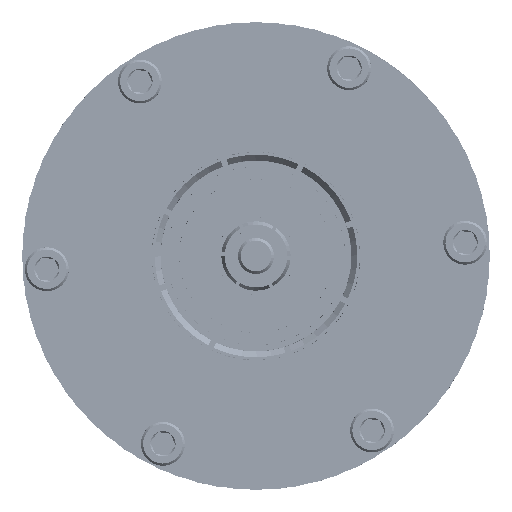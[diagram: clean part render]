
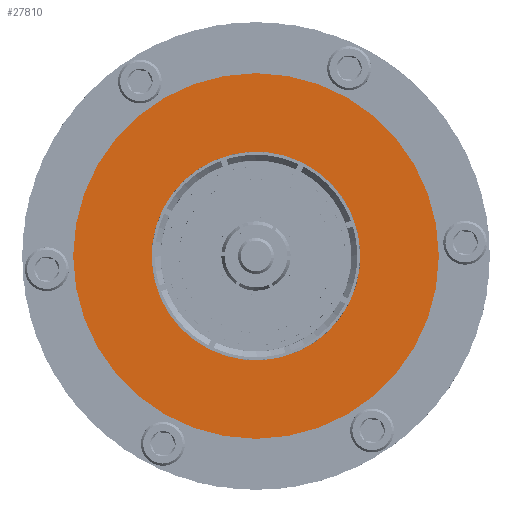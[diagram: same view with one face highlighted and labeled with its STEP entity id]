
A CAD part, front view. The second image highlights one B-rep face of the part: STEP entity #27810.
In plain terms, the highlighted planar face has unit normal (0, -1, 0).
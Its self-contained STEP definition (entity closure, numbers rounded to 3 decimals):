
#8378=ORIENTED_EDGE('',*,*,#12292,.T.);
#8379=ORIENTED_EDGE('',*,*,#12270,.F.);
#12270=EDGE_CURVE('',#14915,#14915,#16482,.T.);
#12292=EDGE_CURVE('',#14937,#14937,#16504,.T.);
#14915=VERTEX_POINT('',#65235);
#14937=VERTEX_POINT('',#65286);
#16482=CIRCLE('',#29956,39.688);
#16504=CIRCLE('',#29985,22.657);
#17714=EDGE_LOOP('',(#8378));
#17715=EDGE_LOOP('',(#8379));
#19101=FACE_BOUND('',#17714,.T.);
#19102=FACE_BOUND('',#17715,.T.);
#19741=PLANE('',#29984);
#27810=ADVANCED_FACE('',(#19101,#19102),#19741,.T.);
#29956=AXIS2_PLACEMENT_3D('',#65234,#34628,#34629);
#29984=AXIS2_PLACEMENT_3D('',#65284,#34684,#34685);
#29985=AXIS2_PLACEMENT_3D('',#65285,#34686,#34687);
#34628=DIRECTION('',(0.,1.,0.));
#34629=DIRECTION('',(1.,0.,0.));
#34684=DIRECTION('',(0.,-1.,0.));
#34685=DIRECTION('',(0.896,0.,-0.444));
#34686=DIRECTION('',(0.,1.,0.));
#34687=DIRECTION('',(-0.896,0.,0.444));
#65234=CARTESIAN_POINT('',(0.,-41.834,0.));
#65235=CARTESIAN_POINT('',(39.688,-41.834,0.));
#65284=CARTESIAN_POINT('',(-35.559,-41.834,17.626));
#65285=CARTESIAN_POINT('',(0.,-41.834,0.));
#65286=CARTESIAN_POINT('',(-20.3,-41.834,10.062));
